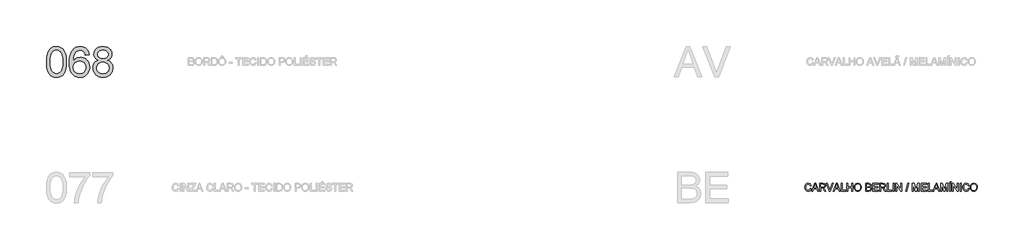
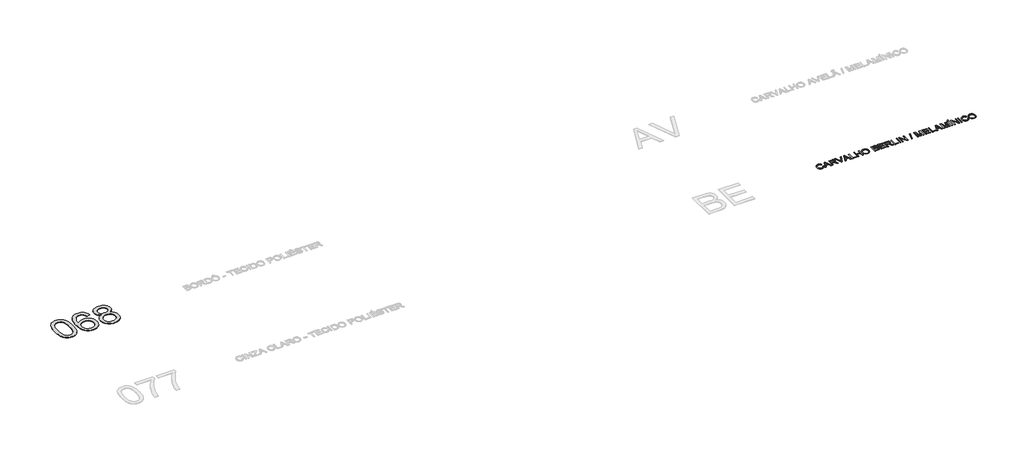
# One storey, part 34 of 67: 2 proxies.
"""IFC4 building model written with IfcOpenShell, lengths in millimetres."""

from ifc_helpers import new_model, si_unit, origin, origin_with_axes, place, context, project, spatial, polyline, outline, extrude, element, save

model = new_model("IFC4")

# Units and contexts
model_context = context("Model", 3, world=origin())
ifc_project = project(units=[si_unit("LENGTHUNIT", "METRE", prefix="MILLI")], contexts=[model_context])

# Site, building, storey
site = spatial("IfcSite", under=ifc_project)
building = spatial("IfcBuilding", under=site)
storey = spatial("IfcBuildingStorey", under=building, Name="Marelli - Linha COLAB - Planta Baixa", Elevation=0.0)

# Proxies
placement = place(None, origin())
element("IfcBuildingElementProxy", 1, Name="1200mm Arial", ObjectType="1200mm Arial", at=placement, inside=storey, context=model_context, shape_type="SweptSolid", body=[
    extrude(outline(polyline([(-181.1313792, -92395.792664), (-178.3630672, -92294.4319773), (-170.0581311, -92202.8385576), (-156.2165711, -92121.0124048), (-136.838387, -92048.953519), (-112.0063523, -91986.073289), (-81.8032405, -91931.7831035), (-46.2290516, -91886.0829627), (-5.2837855, -91848.9728664), (41.1705134, -91820.2596767), (93.271801, -91799.7502555), (151.0200772, -91787.4446027), (214.415342, -91783.3427185), (262.0560604, -91785.7707396), (307.2687576, -91793.0548031), (350.0534336, -91805.194909), (390.4100885, -91822.1910572), (427.3638349, -91843.7581391), (459.9397856, -91869.6110463), (488.1379405, -91899.7497788), (511.9582997, -91934.1743365), (532.5964796, -91972.7467637), (551.2480968, -92015.3291046), (582.5916428, -92112.5235278), (594.5662017, -92169.6831928), (603.1194581, -92235.9479371), (608.2514119, -92311.3177609), (609.9620632, -92395.792664), (607.2213424, -92496.5095573), (598.9991798, -92587.6431245), (585.2955754, -92669.1933658), (566.1105294, -92741.1602811), (541.4716328, -92804.0681023), (511.4064767, -92858.4410612), (475.9150612, -92904.2791578), (434.9973863, -92941.5823921), (388.4879051, -92970.4887199), (336.2210706, -92991.1360968), (278.1968829, -93003.524523), (214.415342, -93007.6539984), (171.7410306, -93005.8605737), (131.4211639, -93000.4802995), (93.455742, -92991.5131759), (57.8447649, -92978.9592028), (24.5882325, -92962.8183803), (-6.3138551, -92943.0907083), (-34.8614979, -92919.7761868), (-61.054696, -92892.8748159), (-89.1976686, -92850.2786794), (-113.5882449, -92802.0999336), (-134.2264248, -92748.3385785), (-151.1122084, -92688.9946142), (-164.2455956, -92624.0680406), (-173.6265865, -92553.5588577), (-179.255181, -92477.4670655), (-181.1313792, -92395.792664)]), holes=[polyline([(-30.446914, -92395.4983584), (-26.03233, -92526.4919399), (-12.7885782, -92632.5247279), (-2.8557643, -92676.1808245), (9.2843415, -92713.5967226), (23.6317393, -92744.7724225), (40.1864291, -92769.7079239), (77.5632398, -92807.884878), (119.0603289, -92835.1541309), (164.6776963, -92851.5156826), (214.415342, -92856.9695332), (264.1529878, -92851.4972885), (309.7703552, -92835.0805545), (351.2674442, -92807.7193311), (388.6442549, -92769.4136183), (405.1989447, -92744.418336), (419.5463425, -92713.2104465), (431.6864484, -92675.7899498), (441.6192622, -92632.1568459), (454.8630141, -92526.2528166), (459.277598, -92395.4983584), (455.0101669, -92267.9720648), (442.2078734, -92163.8062779), (432.6061534, -92120.4835744), (420.8707177, -92083.0009976), (407.0015665, -92051.3585475), (390.9986997, -92025.5562241), (354.2472884, -91985.5122689), (312.2719527, -91956.9094438), (265.0726927, -91939.7477487), (212.6495084, -91934.0271837), (163.1693801, -91939.067167), (118.3245649, -91954.187117), (78.1150628, -91979.3870337), (42.5408739, -92014.666917), (25.4343611, -92043.2145599), (10.6087167, -92077.2068562), (-1.9360594, -92116.6438061), (-12.199967, -92161.5254095), (-25.8851772, -92267.6225769), (-30.446914, -92395.4983584)])]), origin_with_axes(), (0.0, 0.0, 1.0), 10.0),
    extrude(outline(polyline([(1514.0688546, -92103.5472071), (1363.3843893, -92122.3827652), (1352.3111413, -92082.0812927), (1339.1041777, -92047.7027202), (1323.7634985, -92019.2470479), (1306.2891037, -91996.7142757), (1273.897094, -91969.2886729), (1237.936629, -91949.6989567), (1198.4077086, -91937.9451269), (1155.3103329, -91934.0271837), (1119.7729321, -91936.3080521), (1085.265601, -91943.1506572), (1051.7883394, -91954.554999), (1019.3411475, -91970.5210776), (989.7358439, -91996.6315022), (962.7241084, -92028.1681863), (938.305941, -92065.1311297), (916.4813416, -92107.5203326), (898.4091386, -92158.1316981), (885.2481602, -92219.7611293), (876.9984065, -92292.4086263), (873.6598774, -92376.0741891), (902.3822641, -92338.2099347), (934.1028892, -92305.5512106), (968.8217525, -92278.0980167), (1006.538854, -92255.8503531), (1046.2425184, -92238.6610669), (1086.92107, -92226.3830053), (1128.5745089, -92219.0161683), (1171.2028351, -92216.560556), (1208.1013992, -92218.2390176), (1243.6020117, -92223.2744024), (1277.7046727, -92231.6667104), (1310.409382, -92243.4159416), (1341.7161398, -92258.5220961), (1371.624946, -92276.9851737), (1400.1358007, -92298.8051745), (1427.2487037, -92323.9820986), (1452.0117605, -92351.81697), (1473.4730764, -92381.6108131), (1491.6326514, -92413.3636278), (1506.4904855, -92447.0754142), (1518.0465786, -92482.7461721), (1526.3009309, -92520.3759017), (1531.2535423, -92559.9646029), (1532.9044127, -92601.5122757), (1529.7958099, -92656.4462547), (1520.4700013, -92709.4120649), (1504.926987, -92760.4097065), (1483.166767, -92809.4391794), (1455.9618934, -92854.6702707), (1424.0849186, -92894.2727675), (1387.5358423, -92928.2466698), (1346.3146648, -92956.5919775), (1301.3043027, -92978.9316116), (1253.3876728, -92994.8884932), (1202.5647752, -93004.4626221), (1148.8356098, -93007.6539984), (1102.8342655, -93005.5386769), (1059.0080236, -92999.1927125), (1017.3568839, -92988.6161052), (977.8808466, -92973.8088549), (940.5799116, -92954.7709616), (905.4540788, -92931.5024254), (872.5033483, -92904.0032463), (841.7277202, -92872.2734242), (813.895148, -92835.6875598), (789.7735854, -92793.6202536), (769.3630325, -92746.0715057), (752.6634892, -92693.0413161), (739.6749555, -92634.5296848), (730.3974314, -92570.5366117), (724.830917, -92501.062097), (722.9754121, -92426.1061404), (725.0355513, -92342.1784618), (731.2159688, -92264.1828803), (741.5166647, -92192.1193959), (755.9376389, -92125.9880088), (774.4788915, -92065.7887188), (797.1404224, -92011.521526), (823.9222316, -91963.1864303), (854.8243192, -91920.7834319), (884.8388915, -91888.5707647), (917.3458643, -91860.6531198), (952.3452376, -91837.0304971), (989.8370114, -91817.7028968), (1029.8211858, -91802.6703188), (1072.2977607, -91791.9327631), (1117.266736, -91785.4902296), (1164.728112, -91783.3427185), (1234.1290503, -91788.6586133), (1296.944901, -91804.6062978), (1353.175664, -91831.1857719), (1402.8213392, -91868.3970358), (1444.5391575, -91914.9892904), (1476.9863495, -91969.7117372), (1500.1629152, -92032.5643761), (1514.0688546, -92103.5472071)]), holes=[polyline([(873.6598774, -92599.157831), (875.8395782, -92632.9202011), (882.3786807, -92665.9284131), (893.2771848, -92698.182467), (908.5350905, -92729.6823629), (927.4074369, -92758.9473756), (949.1492628, -92784.4967801), (973.7605683, -92806.3305766), (1001.2413533, -92824.4487648), (1031.4168739, -92838.676601), (1064.1123863, -92848.8393411), (1099.3278903, -92854.9369852), (1137.0633859, -92856.9695332), (1189.440585, -92852.7572843), (1236.5018892, -92840.1205378), (1278.2472986, -92819.0592936), (1314.6768132, -92789.5735517), (1344.2269344, -92752.8589286), (1365.3341639, -92710.1110407), (1377.9985016, -92661.3298882), (1382.2199475, -92606.5154709), (1378.0536839, -92553.8439662), (1365.5548931, -92507.0769676), (1344.7235751, -92466.214475), (1315.55973, -92431.2564884), (1279.0198508, -92403.2514715), (1236.0604308, -92383.247888), (1186.68147, -92371.2457379), (1130.8829684, -92367.2450212), (1079.2047451, -92371.2457379), (1031.5916179, -92383.247888), (988.0435867, -92403.2514715), (948.5606516, -92431.2564884), (915.7915629, -92465.7546225), (892.3850709, -92505.2375576), (878.3411758, -92549.7052938), (873.6598774, -92599.157831)])]), origin_with_axes(), (0.0, 0.0, 1.0), 10.0),
    extrude(outline(polyline([(1884.3052945, -92324.8650154), (1840.9595984, -92306.7652212), (1803.628773, -92285.1337599), (1772.3128181, -92259.9706314), (1747.0117339, -92231.2758358), (1727.5047911, -92199.3252845), (1713.5712606, -92164.3948891), (1705.2111422, -92126.4846495), (1702.4244361, -92085.5945657), (1708.494489, -92024.1398784), (1716.0820552, -91995.3301197), (1726.7046478, -91967.7987509), (1740.3622669, -91941.545772), (1757.0549124, -91916.571183), (1799.5452828, -91870.4571749), (1824.8325715, -91850.0397242), (1852.134014, -91832.3446002), (1881.4496105, -91817.371803), (1912.7793609, -91805.1213326), (1981.4813235, -91788.787372), (2058.2399018, -91783.3427185), (2135.3663621, -91788.9161307), (2204.5833595, -91805.6363674), (2236.2258096, -91818.1765449), (2265.890894, -91833.5034285), (2293.5786127, -91851.6170183), (2319.2889656, -91872.5173141), (2362.5518882, -91919.5326331), (2379.5480364, -91944.8613085), (2393.4539758, -91971.4039944), (2404.2697065, -91999.1606909), (2411.9952284, -92028.1313981), (2416.6305415, -92058.3161158), (2418.1756459, -92089.7148441), (2415.425728, -92129.160991), (2407.1759743, -92165.9767817), (2393.4263847, -92200.1622161), (2374.1769593, -92231.7172942), (2349.3357276, -92260.2189518), (2318.810719, -92285.2441245), (2282.6019336, -92306.7928124), (2240.7093714, -92324.8650154), (2290.235485, -92345.9354566), (2333.4524224, -92372.6528865), (2370.3601836, -92405.0173051), (2400.9587685, -92443.0287122), (2424.9722658, -92485.8409794), (2442.1247638, -92532.607978), (2452.4162626, -92583.3297081), (2455.8467622, -92638.0061697), (2454.145308, -92676.3670647), (2449.0409453, -92713.1644613), (2440.5336742, -92748.3983594), (2428.6234946, -92782.068759), (2413.3104065, -92814.1756601), (2394.59441, -92844.7190628), (2372.4755051, -92873.6989669), (2346.9536917, -92901.1153726), (2318.6543692, -92926.085363), (2288.202937, -92947.7260214), (2255.5993952, -92966.0373477), (2220.8437437, -92981.019342), (2183.9359825, -92992.6720042), (2144.8761117, -93000.9953343), (2103.6641312, -93005.9893324), (2060.300041, -93007.6539984), (2016.9359508, -93005.9824346), (1975.7239703, -93000.9677432), (1936.6640995, -92992.6099241), (1899.7563383, -92980.9089774), (1865.0006868, -92965.864903), (1832.397145, -92947.4777011), (1801.9457128, -92925.7473715), (1773.6463904, -92900.6739142), (1748.124577, -92873.1034579), (1726.005672, -92843.8821312), (1707.2896755, -92813.009934), (1691.9765874, -92780.4868664), (1680.0664078, -92746.3129283), (1671.5591367, -92710.4881198), (1666.454774, -92673.0124408), (1664.7533198, -92633.8858913), (1668.3217751, -92576.7170293), (1679.0271412, -92524.4042096), (1696.869418, -92476.9474322), (1721.8486054, -92434.3466971), (1753.4128806, -92397.3745566), (1791.0104205, -92366.8035628), (1834.6412252, -92342.6337157), (1884.3052945, -92324.8650154)]), holes=[polyline([(1853.1089013, -92090.0091496), (1856.4474304, -92124.553269), (1866.4630178, -92155.7864504), (1883.1556633, -92183.7086938), (1906.525367, -92208.3199993), (1936.2778234, -92228.4063562), (1972.1187268, -92242.753754), (2014.0480772, -92251.3621927), (2062.0658746, -92254.2316723), (2108.8972526, -92251.3805868), (2149.916095, -92242.8273304), (2185.122402, -92228.5719031), (2214.5161734, -92208.6143049), (2237.6927391, -92184.5180342), (2254.2474289, -92157.8465896), (2264.1802427, -92128.5999709), (2267.4911807, -92096.7781784), (2264.0698781, -92063.714784), (2253.8059705, -92033.3921106), (2236.6994577, -92005.810158), (2212.7503398, -91980.9689263), (2182.6943808, -91960.4319139), (2147.2673447, -91945.7626193), (2106.4692314, -91936.9610426), (2060.300041, -91934.0271837), (2013.7721657, -91936.8966633), (1972.7809144, -91945.5051019), (1937.3262871, -91959.8524998), (1907.4082838, -91979.9388567), (1883.652304, -92004.0351274), (1866.6837469, -92030.4122664), (1856.5026127, -92059.0702739), (1853.1089013, -92090.0091496)]), polyline([(1815.437785, -92628.5883906), (1817.0104805, -92657.6418712), (1821.7285671, -92686.2354992), (1840.6009135, -92742.0431979), (1855.6013018, -92767.9328933), (1875.4393384, -92790.7139859), (1900.1150233, -92810.3864756), (1929.6283563, -92826.9503624), (1961.8180309, -92840.0837496), (1994.5227403, -92849.4647405), (2027.7424844, -92855.093335), (2061.4772634, -92856.9695332), (2115.9605869, -92853.0239988), (2164.0427636, -92841.1873956), (2205.7237937, -92821.4597236), (2241.003677, -92793.8409828), (2269.0730733, -92760.133795), (2289.122642, -92722.140782), (2301.1523833, -92679.8619437), (2305.162297, -92633.2972801), (2301.0236246, -92585.9876555), (2288.6076072, -92542.9454621), (2267.914245, -92504.1706998), (2238.9435379, -92469.6633687), (2202.7071613, -92441.336455), (2160.2167909, -92421.1029453), (2111.4724265, -92408.9628395), (2056.4740683, -92404.9161375), (2002.7908881, -92408.9076572), (1955.3433078, -92420.8822161), (1914.1313273, -92440.8398143), (1879.1549466, -92468.7804519), (1851.2786884, -92502.7175659), (1831.3670754, -92540.6645937), (1819.4201076, -92582.6215353), (1815.437785, -92628.5883906)])]), origin_with_axes(), (0.0, 0.0, 1.0), 10.0),
])
element("IfcBuildingElementProxy", 2, Name="300mm Arial", ObjectType="300mm Arial", at=placement, inside=storey, context=model_context, shape_type="SweptSolid", body=[
    extrude(outline(polyline([(30192.8049943, -97423.4390831), (30230.4761106, -97433.1511677), (30223.0219016, -97456.5783531), (30213.0936863, -97477.0486868), (30200.6914645, -97494.5621691), (30185.8152364, -97509.1187997), (30168.8006941, -97520.5622291), (30149.98353, -97528.7361071), (30129.3637442, -97533.640434), (30106.9413366, -97535.2752096), (30063.2461526, -97530.3271968), (30028.5456834, -97515.4831583), (30001.9478152, -97491.2581289), (29982.560434, -97458.1671434), (29970.7238308, -97419.2636224), (29966.7782964, -97377.6009865), (29971.2388656, -97333.6574821), (29984.6205732, -97295.7104543), (30006.2244434, -97264.9647166), (30035.3515003, -97242.6250824), (30069.8956197, -97229.0226457), (30107.750677, -97224.4885001), (30149.054628, -97230.3562179), (30167.0233642, -97237.6908652), (30183.2032742, -97247.9593714), (30197.3276435, -97260.8904235), (30209.1297578, -97276.2127086), (30225.767221, -97314.0309777), (30188.0961047, -97323.0072984), (30175.0362939, -97295.5357104), (30157.1940171, -97276.6909552), (30134.3485452, -97265.7924511), (30106.279149, -97262.1596164), (30073.9239275, -97266.1879242), (30047.3444534, -97278.2728478), (30027.175323, -97297.1451941), (30014.0511328, -97321.5357704), (30006.8498428, -97349.1085259), (30004.4494127, -97377.5274101), (30007.2913012, -97412.3290468), (30015.8169664, -97442.421794), (30030.3483052, -97466.6560205), (30051.2072143, -97483.8820949), (30076.2139929, -97494.1735937), (30103.1889402, -97497.6040933), (30134.6336538, -97492.931992), (30160.8360489, -97478.9156879), (30180.6189032, -97455.702334), (30192.8049943, -97423.4390831)])), origin_with_axes(), (0.0, 0.0, 1.0), 10.0),
    extrude(outline(polyline([(30247.1779532, -97530.5663201), (30367.4753656, -97229.1973896), (30399.5546756, -97229.1973896), (30519.852088, -97530.5663201), (30480.0472561, -97530.5663201), (30445.539925, -97436.3885293), (30321.4165398, -97436.3885293), (30286.982785, -97530.5663201), (30247.1779532, -97530.5663201)]), holes=[polyline([(30335.2489028, -97398.717413), (30431.7811383, -97398.717413), (30404.6314471, -97324.6259792), (30383.5150206, -97266.8685059), (30364.7530388, -97318.1512561), (30335.2489028, -97398.717413)])]), origin_with_axes(), (0.0, 0.0, 1.0), 10.0),
    extrude(outline(polyline([(30560.0983783, -97530.5663201), (30560.0983783, -97229.1973896), (30689.9607226, -97229.1973896), (30724.8635268, -97231.2299376), (30750.2565816, -97237.3275817), (30768.8162282, -97248.5847708), (30783.2188083, -97266.0959537), (30792.4618435, -97287.8101885), (30795.5428552, -97311.6765329), (30790.4384925, -97341.3646099), (30775.1254044, -97365.9759154), (30763.5256253, -97376.0052983), (30749.1437385, -97384.0205273), (30712.0336423, -97394.0085235), (30733.4443744, -97410.1217548), (30763.97858, -97448.8965171), (30814.2312605, -97530.5663201), (30770.4533031, -97530.5663201), (30731.2370824, -97468.0999573), (30702.9101688, -97426.750021), (30683.0077528, -97407.2154871), (30665.0918997, -97400.0417882), (30643.2397092, -97398.717413), (30597.7694946, -97398.717413), (30597.7694946, -97530.5663201), (30560.0983783, -97530.5663201)]), holes=[polyline([(30597.7694946, -97361.0462967), (30682.0880479, -97361.0462967), (30706.3038802, -97359.7127245), (30725.0934531, -97355.7120078), (30739.2385158, -97348.7774322), (30749.5208176, -97338.6422832), (30755.7840085, -97326.3826157), (30757.8717389, -97313.0744845), (30753.8894163, -97294.6987789), (30741.9424485, -97279.8915286), (30721.387042, -97270.1242616), (30691.5794033, -97266.8685059), (30597.7694946, -97266.8685059), (30597.7694946, -97361.0462967)])]), origin_with_axes(), (0.0, 0.0, 1.0), 10.0),
    extrude(outline(polyline([(31104.1958491, -97530.5663201), (31224.4932615, -97229.1973896), (31256.5725715, -97229.1973896), (31376.8699839, -97530.5663201), (31337.0651521, -97530.5663201), (31302.5578209, -97436.3885293), (31178.4344357, -97436.3885293), (31144.000681, -97530.5663201), (31104.1958491, -97530.5663201)]), holes=[polyline([(31192.2667988, -97398.717413), (31288.7990343, -97398.717413), (31261.6493431, -97324.6259792), (31240.5329165, -97266.8685059), (31221.7709348, -97318.1512561), (31192.2667988, -97398.717413)])]), origin_with_axes(), (0.0, 0.0, 1.0), 10.0),
    extrude(outline(polyline([(30950.4947515, -97530.5663201), (30830.5652211, -97229.1973896), (30870.8850878, -97229.1973896), (30951.1569391, -97446.3213432), (30967.4173233, -97495.2496485), (30983.4569783, -97446.3213432), (31063.9495588, -97229.1973896), (31104.2694255, -97229.1973896), (30989.4166666, -97530.5663201), (30950.4947515, -97530.5663201)])), origin_with_axes(), (0.0, 0.0, 1.0), 10.0),
    extrude(outline(polyline([(31417.1162742, -97530.5663201), (31417.1162742, -97229.1973896), (31454.7873905, -97229.1973896), (31454.7873905, -97492.8952038), (31605.4718557, -97492.8952038), (31605.4718557, -97530.5663201), (31417.1162742, -97530.5663201)])), origin_with_axes(), (0.0, 0.0, 1.0), 10.0),
    extrude(outline(polyline([(31647.8518616, -97530.5663201), (31647.8518616, -97229.1973896), (31685.5229779, -97229.1973896), (31685.5229779, -97351.6285176), (31845.6252222, -97351.6285176), (31845.6252222, -97229.1973896), (31883.2963385, -97229.1973896), (31883.2963385, -97530.5663201), (31845.6252222, -97530.5663201), (31845.6252222, -97389.2996339), (31685.5229779, -97389.2996339), (31685.5229779, -97530.5663201), (31647.8518616, -97530.5663201)])), origin_with_axes(), (0.0, 0.0, 1.0), 10.0),
    extrude(outline(polyline([(31935.0941234, -97383.8549804), (31937.604918, -97348.5061192), (31945.1373019, -97317.213157), (31957.691275, -97289.9760937), (31975.2668373, -97266.7949295), (31996.8109266, -97248.2858666), (32021.2704808, -97235.0651074), (32048.6454998, -97227.1326519), (32078.9359835, -97224.4885001), (32118.4649039, -97229.454907), (32153.9103342, -97244.3541278), (32183.3408938, -97268.1376988), (32204.8252023, -97299.7571563), (32217.9585895, -97337.68579), (32222.3363853, -97380.3968896), (32217.7286633, -97423.6782064), (32203.9054973, -97462.140269), (32181.6302425, -97493.8149087), (32151.666254, -97516.733957), (32116.5243264, -97530.6398965), (32078.7152543, -97535.2752096), (32038.5793287, -97530.1524528), (32002.9315633, -97514.7841825), (31973.5745801, -97490.5591531), (31952.3110008, -97458.8661192), (31939.3983428, -97422.3998164), (31935.0941234, -97383.8549804)]), holes=[polyline([(31972.7652397, -97384.2228624), (31974.6483357, -97409.1974513), (31980.2976236, -97431.3669401), (31989.7131034, -97450.7313286), (32002.8947751, -97467.2906169), (32018.9183353, -97480.5527628), (32036.8594803, -97490.0257242), (32056.7182103, -97495.709501), (32078.4945251, -97497.6040933), (32100.6433205, -97495.6911069), (32120.7365752, -97489.9521478), (32138.7742893, -97480.3872159), (32154.7564627, -97466.9963113), (32167.8415655, -97450.0875351), (32177.1880674, -97429.9689885), (32182.7959686, -97406.6406715), (32184.665269, -97380.102584), (32181.4646956, -97346.7540812), (32171.8629755, -97317.9305269), (32156.1084291, -97294.358488), (32134.4493766, -97276.7645316), (32108.3205579, -97265.8108452), (32079.1567127, -97262.1596164), (32058.1368552, -97263.9185522), (32038.634511, -97269.1953595), (32020.6496799, -97277.9900385), (32004.1823621, -97290.302589), (31990.4373711, -97306.7262208), (31980.6195203, -97327.8541437), (31974.7288099, -97353.6863575), (31972.7652397, -97384.2228624)])]), origin_with_axes(), (0.0, 0.0, 1.0), 10.0),
    extrude(outline(polyline([(32391.8564086, -97530.5663201), (32391.8564086, -97229.1973896), (32506.8563203, -97229.1973896), (32538.4849749, -97231.4138786), (32563.1790538, -97238.0633457), (32582.1065824, -97249.3113377), (32596.4355862, -97265.3234015), (32605.4578921, -97284.1589597), (32608.4653274, -97303.8774346), (32605.9361387, -97322.0232141), (32598.3485725, -97339.0837416), (32585.6474466, -97354.0105535), (32567.7775787, -97365.7551862), (32589.1239315, -97376.9020107), (32604.896872, -97393.8613707), (32614.6365479, -97415.5112261), (32617.8831065, -97440.7295368), (32615.6666175, -97461.7447958), (32609.0171504, -97481.2333445), (32599.0935336, -97497.8064284), (32587.0545953, -97510.0752929), (32572.3117243, -97518.9596431), (32554.2763095, -97525.3791839), (32505.9734035, -97530.5663201), (32391.8564086, -97530.5663201)]), holes=[polyline([(32429.5275249, -97351.6285176), (32498.321458, -97351.6285176), (32538.4941719, -97348.3911561), (32552.5564612, -97342.8085468), (32562.664019, -97334.4484284), (32568.7616631, -97323.4395597), (32570.7942111, -97309.9106994), (32568.8996188, -97296.7773121), (32563.215842, -97285.3361821), (32554.000398, -97276.4058467), (32541.5108043, -97270.8048433), (32493.0975337, -97266.8685059), (32429.5275249, -97266.8685059), (32429.5275249, -97351.6285176)]), polyline([(32429.5275249, -97492.8952038), (32506.7827439, -97492.8952038), (32534.7417756, -97491.4236758), (32558.3965879, -97483.2199073), (32574.0683609, -97466.4812765), (32578.6760828, -97454.6538704), (32580.2119902, -97441.0974188), (32578.4093684, -97425.3520694), (32573.0015031, -97411.814012), (32563.5561328, -97401.2282076), (32549.6409964, -97394.3396173), (32529.9317185, -97390.5596298), (32503.103924, -97389.2996339), (32429.5275249, -97389.2996339), (32429.5275249, -97492.8952038)])]), origin_with_axes(), (0.0, 0.0, 1.0), 10.0),
    extrude(outline(polyline([(32669.6808914, -97530.5663201), (32669.6808914, -97229.1973896), (32886.2898102, -97229.1973896), (32886.2898102, -97266.8685059), (32707.3520077, -97266.8685059), (32707.3520077, -97356.3374072), (32876.8720311, -97356.3374072), (32876.8720311, -97394.0085235), (32707.3520077, -97394.0085235), (32707.3520077, -97492.8952038), (32890.9986997, -97492.8952038), (32890.9986997, -97530.5663201), (32669.6808914, -97530.5663201)])), origin_with_axes(), (0.0, 0.0, 1.0), 10.0),
    extrude(outline(polyline([(32947.5053742, -97530.5663201), (32947.5053742, -97229.1973896), (33077.3677185, -97229.1973896), (33112.2705227, -97231.2299376), (33137.6635775, -97237.3275817), (33156.2232241, -97248.5847708), (33170.6258042, -97266.0959537), (33179.8688394, -97287.8101885), (33182.9498511, -97311.6765329), (33177.8454884, -97341.3646099), (33162.5324003, -97365.9759154), (33150.9326212, -97376.0052983), (33136.5507344, -97384.0205273), (33099.4406382, -97394.0085235), (33120.8513703, -97410.1217548), (33151.3855759, -97448.8965171), (33201.6382564, -97530.5663201), (33157.860299, -97530.5663201), (33118.6440783, -97468.0999573), (33090.3171647, -97426.750021), (33070.4147487, -97407.2154871), (33052.4988956, -97400.0417882), (33030.6467051, -97398.717413), (32985.1764905, -97398.717413), (32985.1764905, -97530.5663201), (32947.5053742, -97530.5663201)]), holes=[polyline([(32985.1764905, -97361.0462967), (33069.4950438, -97361.0462967), (33093.7108761, -97359.7127245), (33112.500449, -97355.7120078), (33126.6455117, -97348.7774322), (33136.9278135, -97338.6422832), (33143.1910044, -97326.3826157), (33145.2787348, -97313.0744845), (33141.2964122, -97294.6987789), (33129.3494444, -97279.8915286), (33108.7940379, -97270.1242616), (33078.9863992, -97266.8685059), (32985.1764905, -97266.8685059), (32985.1764905, -97361.0462967)])]), origin_with_axes(), (0.0, 0.0, 1.0), 10.0),
    extrude(outline(polyline([(33248.8743046, -97530.5663201), (33248.8743046, -97229.1973896), (33286.5454209, -97229.1973896), (33286.5454209, -97492.8952038), (33437.2298861, -97492.8952038), (33437.2298861, -97530.5663201), (33248.8743046, -97530.5663201)])), origin_with_axes(), (0.0, 0.0, 1.0), 10.0),
    extrude(outline(polyline([(33484.3187815, -97530.5663201), (33484.3187815, -97229.1973896), (33521.9898978, -97229.1973896), (33521.9898978, -97530.5663201), (33484.3187815, -97530.5663201)])), origin_with_axes(), (0.0, 0.0, 1.0), 10.0),
    extrude(outline(polyline([(33597.3321304, -97530.5663201), (33597.3321304, -97229.1973896), (33637.6519971, -97229.1973896), (33795.105491, -97467.9528045), (33795.105491, -97229.1973896), (33832.7766073, -97229.1973896), (33832.7766073, -97530.5663201), (33792.4567407, -97530.5663201), (33635.0032467, -97291.7373288), (33635.0032467, -97530.5663201), (33597.3321304, -97530.5663201)])), origin_with_axes(), (0.0, 0.0, 1.0), 10.0),
    extrude(outline(polyline([(33983.4610726, -97530.5663201), (34068.2210843, -97229.1973896), (34102.2133806, -97229.1973896), (34017.4533689, -97530.5663201), (33983.4610726, -97530.5663201)])), origin_with_axes(), (0.0, 0.0, 1.0), 10.0),
    extrude(outline(polyline([(34251.8677763, -97530.5663201), (34251.8677763, -97229.1973896), (34316.6885838, -97229.1973896), (34378.3456062, -97441.6124536), (34390.7800176, -97485.9790223), (34404.2444987, -97437.9336337), (34464.8714515, -97229.1973896), (34529.692259, -97229.1973896), (34529.692259, -97530.5663201), (34492.0211427, -97530.5663201), (34492.0211427, -97266.8685059), (34416.3110281, -97530.5663201), (34365.2490072, -97530.5663201), (34289.5388926, -97266.8685059), (34289.5388926, -97530.5663201), (34251.8677763, -97530.5663201)])), origin_with_axes(), (0.0, 0.0, 1.0), 10.0),
    extrude(outline(polyline([(34595.6167125, -97530.5663201), (34595.6167125, -97229.1973896), (34812.2256313, -97229.1973896), (34812.2256313, -97266.8685059), (34633.2878289, -97266.8685059), (34633.2878289, -97356.3374072), (34802.8078522, -97356.3374072), (34802.8078522, -97394.0085235), (34633.2878289, -97394.0085235), (34633.2878289, -97492.8952038), (34816.9345208, -97492.8952038), (34816.9345208, -97530.5663201), (34595.6167125, -97530.5663201)])), origin_with_axes(), (0.0, 0.0, 1.0), 10.0),
    extrude(outline(polyline([(34873.4411953, -97530.5663201), (34873.4411953, -97229.1973896), (34911.1123116, -97229.1973896), (34911.1123116, -97492.8952038), (35061.7967768, -97492.8952038), (35061.7967768, -97530.5663201), (34873.4411953, -97530.5663201)])), origin_with_axes(), (0.0, 0.0, 1.0), 10.0),
    extrude(outline(polyline([(35069.0808403, -97530.5663201), (35189.3782528, -97229.1973896), (35221.4575627, -97229.1973896), (35341.7549752, -97530.5663201), (35301.9501433, -97530.5663201), (35267.4428121, -97436.3885293), (35143.319427, -97436.3885293), (35108.8856722, -97530.5663201), (35069.0808403, -97530.5663201)]), holes=[polyline([(35157.15179, -97398.717413), (35253.6840255, -97398.717413), (35226.5343343, -97324.6259792), (35205.4179078, -97266.8685059), (35186.655926, -97318.1512561), (35157.15179, -97398.717413)])]), origin_with_axes(), (0.0, 0.0, 1.0), 10.0),
    extrude(outline(polyline([(35382.0012654, -97530.5663201), (35382.0012654, -97229.1973896), (35446.822073, -97229.1973896), (35508.4790954, -97441.6124536), (35520.9135068, -97485.9790223), (35534.3779878, -97437.9336337), (35595.0049406, -97229.1973896), (35659.8257482, -97229.1973896), (35659.8257482, -97530.5663201), (35622.1546319, -97530.5663201), (35622.1546319, -97266.8685059), (35546.4445173, -97530.5663201), (35495.3824963, -97530.5663201), (35419.6723817, -97266.8685059), (35419.6723817, -97530.5663201), (35382.0012654, -97530.5663201)])), origin_with_axes(), (0.0, 0.0, 1.0), 10.0),
    extrude(outline(polyline([(35730.4590913, -97530.5663201), (35730.4590913, -97229.1973896), (35768.1302076, -97229.1973896), (35768.1302076, -97530.5663201), (35730.4590913, -97530.5663201)])), origin_with_axes(), (0.0, 0.0, 1.0), 10.0),
    extrude(outline(polyline([(35721.0413122, -97210.3618315), (35749.2946494, -97153.855157), (35796.3835448, -97153.855157), (35749.2946494, -97210.3618315), (35721.0413122, -97210.3618315)])), origin_with_axes(), (0.0, 0.0, 1.0), 10.0),
    extrude(outline(polyline([(35843.4724402, -97530.5663201), (35843.4724402, -97229.1973896), (35883.7923069, -97229.1973896), (36041.2458008, -97467.9528045), (36041.2458008, -97229.1973896), (36078.9169171, -97229.1973896), (36078.9169171, -97530.5663201), (36038.5970504, -97530.5663201), (35881.1435565, -97291.7373288), (35881.1435565, -97530.5663201), (35843.4724402, -97530.5663201)])), origin_with_axes(), (0.0, 0.0, 1.0), 10.0),
    extrude(outline(polyline([(36149.5502602, -97530.5663201), (36149.5502602, -97229.1973896), (36187.2213765, -97229.1973896), (36187.2213765, -97530.5663201), (36149.5502602, -97530.5663201)])), origin_with_axes(), (0.0, 0.0, 1.0), 10.0),
    extrude(outline(polyline([(36474.4636383, -97423.4390831), (36512.1347546, -97433.1511677), (36504.6805457, -97456.5783531), (36494.7523303, -97477.0486868), (36482.3501086, -97494.5621691), (36467.4738804, -97509.1187997), (36450.4593381, -97520.5622291), (36431.6421741, -97528.7361071), (36411.0223882, -97533.640434), (36388.5999806, -97535.2752096), (36344.9047967, -97530.3271968), (36310.2043275, -97515.4831583), (36283.6064592, -97491.2581289), (36264.2190781, -97458.1671434), (36252.3824749, -97419.2636224), (36248.4369405, -97377.6009865), (36252.8975097, -97333.6574821), (36266.2792172, -97295.7104543), (36287.8830874, -97264.9647166), (36317.0101444, -97242.6250824), (36351.5542637, -97229.0226457), (36389.409321, -97224.4885001), (36430.713272, -97230.3562179), (36448.6820082, -97237.6908652), (36464.8619182, -97247.9593714), (36478.9862876, -97260.8904235), (36490.7884018, -97276.2127086), (36507.4258651, -97314.0309777), (36469.7547488, -97323.0072984), (36456.6949379, -97295.5357104), (36438.8526612, -97276.6909552), (36416.0071893, -97265.7924511), (36387.937793, -97262.1596164), (36355.5825716, -97266.1879242), (36329.0030974, -97278.2728478), (36308.833967, -97297.1451941), (36295.7097769, -97321.5357704), (36288.5084868, -97349.1085259), (36286.1080568, -97377.5274101), (36288.9499452, -97412.3290468), (36297.4756104, -97442.421794), (36312.0069492, -97466.6560205), (36332.8658584, -97483.8820949), (36357.872637, -97494.1735937), (36384.8475843, -97497.6040933), (36416.2922978, -97492.931992), (36442.4946929, -97478.9156879), (36462.2775472, -97455.702334), (36474.4636383, -97423.4390831)])), origin_with_axes(), (0.0, 0.0, 1.0), 10.0),
    extrude(outline(polyline([(36549.8058709, -97383.8549804), (36552.3166655, -97348.5061192), (36559.8490494, -97317.213157), (36572.4030225, -97289.9760937), (36589.9785848, -97266.7949295), (36611.5226741, -97248.2858666), (36635.9822283, -97235.0651074), (36663.3572473, -97227.1326519), (36693.647731, -97224.4885001), (36733.1766514, -97229.454907), (36768.6220817, -97244.3541278), (36798.0526413, -97268.1376988), (36819.5369498, -97299.7571563), (36832.670337, -97337.68579), (36837.0481328, -97380.3968896), (36832.4404108, -97423.6782064), (36818.6172448, -97462.140269), (36796.34199, -97493.8149087), (36766.3780015, -97516.733957), (36731.2360739, -97530.6398965), (36693.4270018, -97535.2752096), (36653.2910762, -97530.1524528), (36617.6433108, -97514.7841825), (36588.2863276, -97490.5591531), (36567.0227483, -97458.8661192), (36554.1100903, -97422.3998164), (36549.8058709, -97383.8549804)]), holes=[polyline([(36587.4769872, -97384.2228624), (36589.3600832, -97409.1974513), (36595.0093711, -97431.3669401), (36604.4248509, -97450.7313286), (36617.6065226, -97467.2906169), (36633.6300828, -97480.5527628), (36651.5712278, -97490.0257242), (36671.4299578, -97495.709501), (36693.2062726, -97497.6040933), (36715.355068, -97495.6911069), (36735.4483227, -97489.9521478), (36753.4860368, -97480.3872159), (36769.4682102, -97466.9963113), (36782.553313, -97450.0875351), (36791.8998149, -97429.9689885), (36797.5077161, -97406.6406715), (36799.3770165, -97380.102584), (36796.1764431, -97346.7540812), (36786.574723, -97317.9305269), (36770.8201766, -97294.358488), (36749.1611241, -97276.7645316), (36723.0323054, -97265.8108452), (36693.8684602, -97262.1596164), (36672.8486027, -97263.9185522), (36653.3462585, -97269.1953595), (36635.3614274, -97277.9900385), (36618.8941096, -97290.302589), (36605.1491186, -97306.7262208), (36595.3312678, -97327.8541437), (36589.4405574, -97353.6863575), (36587.4769872, -97384.2228624)])]), origin_with_axes(), (0.0, 0.0, 1.0), 10.0),
])

save(model, "model.ifc")
